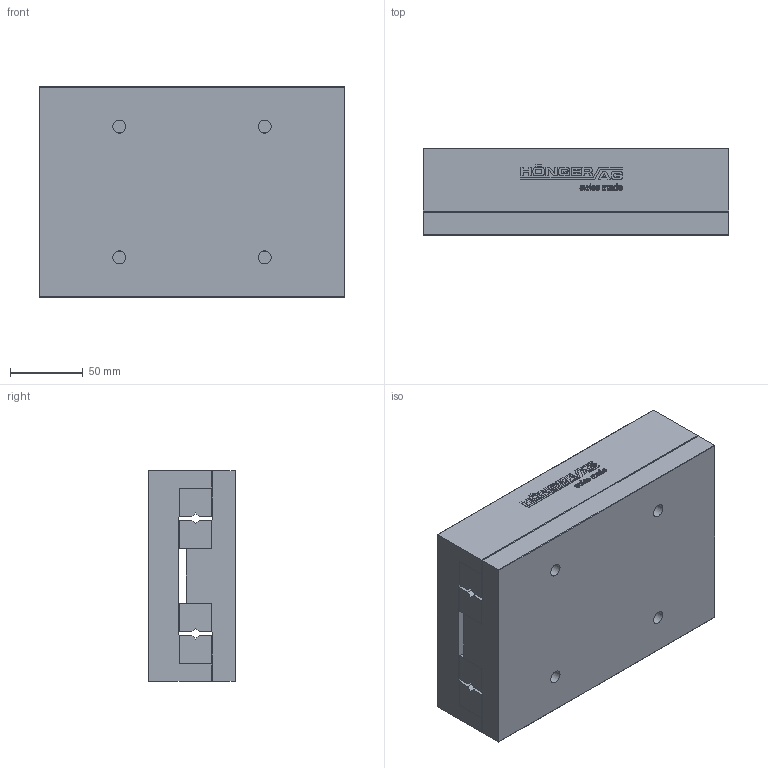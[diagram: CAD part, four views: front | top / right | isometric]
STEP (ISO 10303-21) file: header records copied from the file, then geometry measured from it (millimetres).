
FILE_DESCRIPTION(/* description */ ('STEP AP214'),/* implementation_level */ '2;1');
FILE_NAME(/* name */ 'NK 9-210-B(0)',/* time_stamp */ '2025-04-22T17:52:01+02:00',/* author */ ('License CC BY-ND 4.0'),/* organization */ ('CADENAS'),/* preprocessor_version */ 'ST-DEVELOPER v19.3',/* originating_system */ 'PARTsolutions',/* authorisation */ ' ');
FILE_SCHEMA (('AUTOMOTIVE_DESIGN {1 0 10303 214 3 1 1}'));
Length unit declared in the file: millimetre
Products named in the file (3): NK 9-210-B(0); NK 9-210-B_1; NK 9-210-B_2
Assembly tree (2 placements, depth 2):
  NK 9-210-B(0)
    NK 9-210-B_1
    NK 9-210-B_2
Bounding box: 210 x 60 x 145 mm (x, y, z)
Volume: 1739374.9 mm3; surface area: 222069 mm2
Topology: 2 solids, 2 shells, 579 faces, 1622 edges, 1072 vertices
Faces by surface type: cylinder 302, plane 273, cone 4
Full cylindrical faces by diameter (mm): 6.647 x2, 9 x4, 15 x4
Entity records: 18781 total; most frequent: DIRECTION 3380, CARTESIAN_POINT 3250, ORIENTED_EDGE 3204, EDGE_CURVE 1602, AXIS2_PLACEMENT_3D 1196, VERTEX_POINT 1066, LINE 988, VECTOR 988
